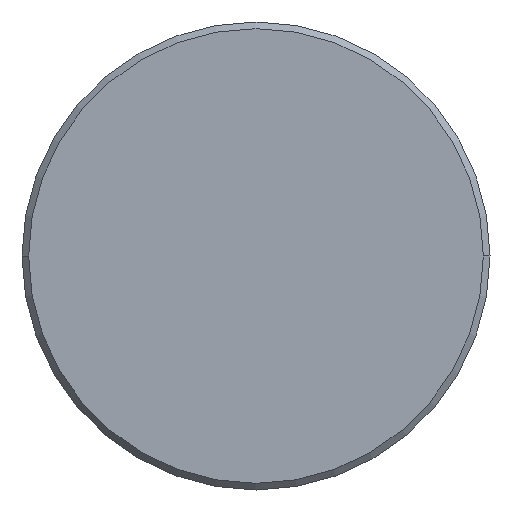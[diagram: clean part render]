
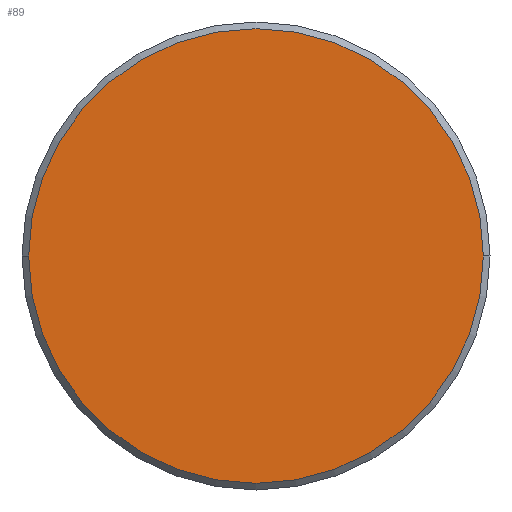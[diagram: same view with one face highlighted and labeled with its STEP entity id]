
A CAD part, left-side view. The second image highlights one B-rep face of the part: STEP entity #89.
In plain terms, the highlighted planar face has unit normal (-1, 0, 0).
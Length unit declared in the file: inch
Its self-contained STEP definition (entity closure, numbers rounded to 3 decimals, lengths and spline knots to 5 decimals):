
#15 = PLANE ( 'NONE',  #215 ) ;
#43 = VERTEX_POINT ( 'NONE', #159 ) ;
#45 = CIRCLE ( 'NONE', #338, 0.13662 ) ;
#48 = EDGE_LOOP ( 'NONE', ( #88, #120 ) ) ;
#86 = DIRECTION ( 'NONE',  ( 0., -1., 0. ) ) ;
#88 = ORIENTED_EDGE ( 'NONE', *, *, #328, .T. ) ;
#89 = ADVANCED_FACE ( 'NONE', ( #319 ), #15, .T. ) ;
#90 = CARTESIAN_POINT ( 'NONE',  ( 0., 0., 0. ) ) ;
#109 = VERTEX_POINT ( 'NONE', #281 ) ;
#116 = DIRECTION ( 'NONE',  ( 0., -1., 0. ) ) ;
#120 = ORIENTED_EDGE ( 'NONE', *, *, #342, .T. ) ;
#156 = CARTESIAN_POINT ( 'NONE',  ( 0., 0., 0. ) ) ;
#159 = CARTESIAN_POINT ( 'NONE',  ( 0., 0.13662, 0. ) ) ;
#163 = DIRECTION ( 'NONE',  ( -1., 0., 0. ) ) ;
#172 = DIRECTION ( 'NONE',  ( -1., 0., 0. ) ) ;
#215 = AXIS2_PLACEMENT_3D ( 'NONE', #156, #163, #315 ) ;
#248 = CIRCLE ( 'NONE', #368, 0.13662 ) ;
#264 = CARTESIAN_POINT ( 'NONE',  ( 0., 0., 0. ) ) ;
#281 = CARTESIAN_POINT ( 'NONE',  ( 0., -0.13662, 0. ) ) ;
#292 = DIRECTION ( 'NONE',  ( -1., 0., 0. ) ) ;
#315 = DIRECTION ( 'NONE',  ( 0., -1., 0. ) ) ;
#319 = FACE_OUTER_BOUND ( 'NONE', #48, .T. ) ;
#328 = EDGE_CURVE ( 'NONE', #43, #109, #248, .T. ) ;
#338 = AXIS2_PLACEMENT_3D ( 'NONE', #264, #172, #86 ) ;
#342 = EDGE_CURVE ( 'NONE', #109, #43, #45, .T. ) ;
#368 = AXIS2_PLACEMENT_3D ( 'NONE', #90, #292, #116 ) ;
